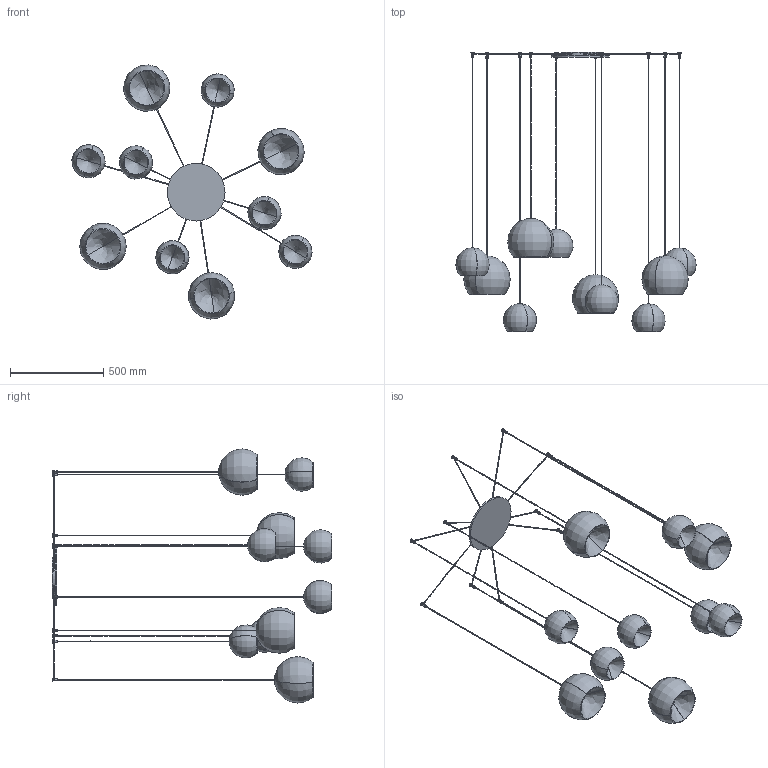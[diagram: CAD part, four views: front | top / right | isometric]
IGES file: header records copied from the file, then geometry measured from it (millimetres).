
Start section: SolidWorks IGES file using analytic representation for surfaces
Global section: file name: Y:\eforma\TECNICO\SOLIDWORKS\E-FORMA\09-LAMPADE\CHERRY MIX\08 modelli 3D web\CRM11-00-CHERRY MIX_10 SOSPENSIONE.IGS; native system: SolidWorks 2022; preprocessor: SolidWorks 2022; author: eforma.tech; date: 240801.144106; units: millimetre
Bounding box: 1289.93 x 1500 x 1365.04 mm (x, y, z)
Volume: 3992662.2 mm3; surface area: 3255071.9 mm2
Topology: 51 solids, 51 shells, 388 faces, 816 edges, 511 vertices
Faces by surface type: revolution 271, plane 117
